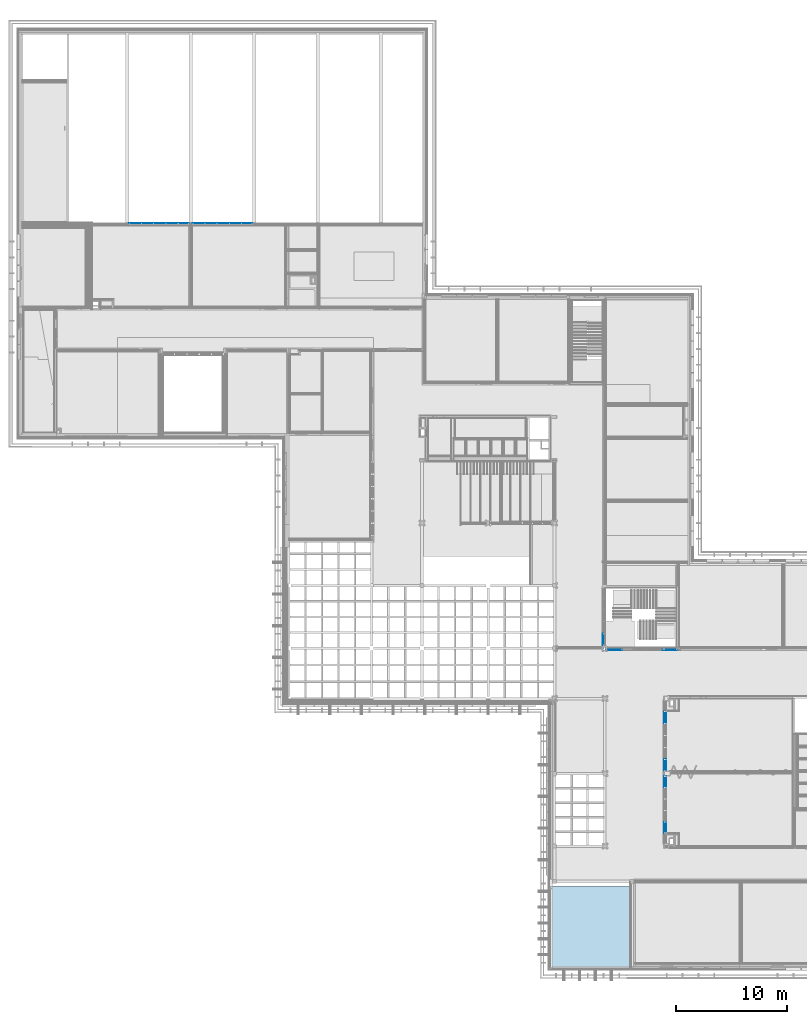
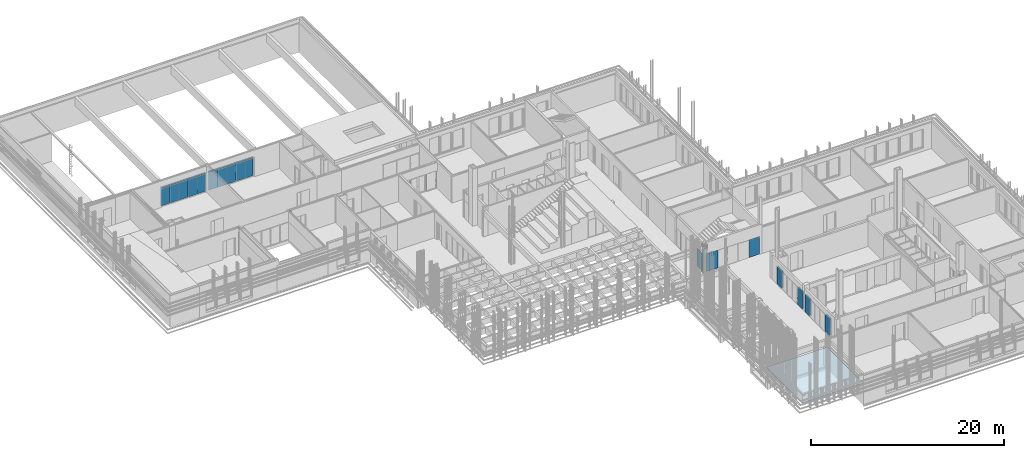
# One storey, part 20 of 139: 31 plates, 1 slab, 8 elements without a shape of their own.
"""IFC2X3 building model written with IfcOpenShell, lengths in millimetres."""

from ifc_helpers import new_model, entity, si_unit, converted_unit, derived_unit, money_unit, direction, frame, origin_with_axes, place, context, subcontext, project, spatial, faceted_brep, source, transform, mapped, material, type_object, element, aggregate, save


model = new_model("IFC2X3")

# Units and contexts
model_context = context("Model", 3, precision=0.01, world=origin_with_axes(), true_north=direction((0.0, 1.0)))
body_context = subcontext(model_context, "Body", "Model", "MODEL_VIEW")
ifc_project = project(units=[si_unit("LENGTHUNIT", "METRE", prefix="MILLI"), si_unit("AREAUNIT", "SQUARE_METRE"), si_unit("VOLUMEUNIT", "CUBIC_METRE"), converted_unit("PLANEANGLEUNIT", "DEGREE", entity("IfcPlaneAngleMeasure", 0.0174532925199), si_unit("PLANEANGLEUNIT", "RADIAN"), dimensions=[0, 0, 0, 0, 0, 0, 0]), money_unit("EUR"), converted_unit("TIMEUNIT", "Year", entity("IfcTimeMeasure", 31556926.0), si_unit("TIMEUNIT", "SECOND"), dimensions=[0, 0, 1, 0, 0, 0, 0]), si_unit("MASSUNIT", "GRAM", prefix="KILO"), si_unit("THERMODYNAMICTEMPERATUREUNIT", "DEGREE_CELSIUS"), si_unit("LUMINOUSINTENSITYUNIT", "LUMEN"), si_unit("ENERGYUNIT", "JOULE", prefix="MEGA"), derived_unit("THERMALCONDUCTANCEUNIT", [(si_unit("POWERUNIT", "WATT"), 1), (si_unit("LENGTHUNIT", "METRE"), -1), (si_unit("THERMODYNAMICTEMPERATUREUNIT", "KELVIN"), -1)]), derived_unit("SPECIFICHEATCAPACITYUNIT", [(si_unit("ENERGYUNIT", "JOULE"), 1), (si_unit("MASSUNIT", "GRAM", prefix="KILO"), -1), (si_unit("THERMODYNAMICTEMPERATUREUNIT", "KELVIN"), -1)]), derived_unit("MASSDENSITYUNIT", [(si_unit("MASSUNIT", "GRAM", prefix="KILO"), 1), (si_unit("VOLUMEUNIT", "CUBIC_METRE"), -1)])], contexts=[model_context])

# Site, building, storey
site_placement = place(None, origin_with_axes())
site = spatial("IfcSite", under=ifc_project, at=site_placement, Name="Kolde pst 67a", CompositionType="ELEMENT")
building_placement = place(site_placement, origin_with_axes())
building = spatial("IfcBuilding", under=site, at=building_placement, Name="Riigigümnaasium", CompositionType="ELEMENT")
storey_placement = place(building_placement, frame((0.0, 0.0, 4600.0), z_axis=(0.0, 0.0, 1.0), x_axis=(1.0, 0.0, 0.0)))
storey = spatial("IfcBuildingStorey", under=building, at=storey_placement, Name="2. korrus", CompositionType="ELEMENT", Elevation=4600.0)

# Curtain wall, plate
curtain_wall_type = type_object("IfcCurtainWallType", Name="Curtain Wall Type", PredefinedType="NOTDEFINED")
curtain_wall_1_placement = place(storey_placement, frame((52619.9941222, 32759.7635899, -0.000120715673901), z_axis=(0.0, 0.0, 1.0), x_axis=(1.0, 0.0, 0.0)))
curtain_wall_1 = element("IfcCurtainWall", 1, at=curtain_wall_1_placement, inside=storey, type_object=curtain_wall_type, Name="KLAASSEIN")
ifc_material_1 = material(Name="_GENEERILINE MATERJAL KLAAS")
plate_type_1 = type_object("IfcPlateType", Name="Distinct Panel 20 x 2300 x 20", PredefinedType="NOTDEFINED")
plate_1_placement = place(curtain_wall_1_placement, frame((0.0, -3404.63062111, 1150.00006036), z_axis=(0.0, 0.0, 1.0), x_axis=(0.0, 1.0, 0.0)))
plate_1 = element("IfcPlate", 2, at=plate_1_placement, type_object=plate_type_1, material=ifc_material_1, Name="Klaasseina uks", context=body_context, shape_type="Brep", body=[
    faceted_brep([(701.6306095, -10.0, 1150.00006036), (721.630618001, -10.0, 1150.00006036), (721.630618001, 10.0, 1150.00006036), (701.6306095, 10.0, 1150.00006036), (701.6306095, -10.0, 1130.00005186), (-270.369392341, -10.0, 1130.00005186), (-411.261261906, -10.0, 1130.00005186), (-411.261261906, -10.0, -1130.00005186), (-270.369392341, -10.0, -1130.00005186), (701.6306095, -10.0, -1130.00005186), (701.6306095, -10.0, -1150.00006036), (721.630618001, -10.0, -1150.00006036), (721.630618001, 10.0, -1150.00006036), (701.6306095, 10.0, -1150.00006036), (701.6306095, 10.0, -1130.00005186), (-270.369392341, 10.0, -1130.00005186), (-411.261261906, 10.0, -1130.00005186), (-411.261261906, 10.0, 1130.00005186), (-270.369392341, 10.0, 1130.00005186), (701.6306095, 10.0, 1130.00005186)], [[[0, 1, 2, 3]], [[0, 4, 5, 6, 7, 8, 9, 10, 11, 1]], [[1, 11, 12, 2]], [[3, 2, 12, 13, 14, 15, 16, 17, 18, 19]], [[4, 0, 3, 19]], [[5, 4, 19, 18]], [[6, 5, 18, 17]], [[7, 6, 17, 16]], [[8, 7, 16, 15]], [[9, 8, 15, 14]], [[10, 9, 14, 13]], [[11, 10, 13, 12]]]),
])
aggregate(curtain_wall_1, [plate_1])

# Curtain wall, plates
curtain_wall_2_placement = place(storey_placement, frame((56010.5010848, 28629.9996643, -9.132059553e-06), z_axis=(0.0, 0.0, 1.0), x_axis=(1.0, 0.0, 0.0)))
curtain_wall_2 = element("IfcCurtainWall", 3, at=curtain_wall_2_placement, inside=storey, type_object=curtain_wall_type, Name="KLAASSEIN")
plate_2_placement = place(curtain_wall_2_placement, frame((-2367.17122128, 0.0, 1150.00000457), z_axis=(0.0, 0.0, 1.0), x_axis=(1.0, 0.0, 0.0)))
plate_2 = element("IfcPlate", 4, at=plate_2_placement, type_object=plate_type_1, material=ifc_material_1, Name="Klaasseina uks", context=body_context, shape_type="Brep", body=[
    faceted_brep([(636.608595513, 10.0, 1150.00000457), (636.608595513, -10.0, 1150.00000457), (656.608603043, -10.0, 1150.00000457), (656.608603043, 10.0, 1150.00000457), (636.608595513, 10.0, 1129.99999704), (636.608595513, -10.0, 1129.99999704), (86.7268863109, -10.0, 1129.99999704), (-703.335530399, -10.0, 1129.99999704), (-703.335530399, -10.0, -1129.99999704), (86.7268863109, -10.0, -1129.99999704), (636.608595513, -10.0, -1129.99999704), (636.608595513, -10.0, -1150.00000457), (656.608603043, -10.0, -1150.00000457), (656.608603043, 10.0, -1150.00000457), (636.608595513, 10.0, -1150.00000457), (636.608595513, 10.0, -1129.99999704), (86.7268863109, 10.0, -1129.99999704), (-703.335530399, 10.0, -1129.99999704), (-703.335530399, 10.0, 1129.99999704), (86.7268863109, 10.0, 1129.99999704)], [[[0, 1, 2, 3]], [[4, 5, 1, 0]], [[1, 5, 6, 7, 8, 9, 10, 11, 12, 2]], [[3, 2, 12, 13]], [[0, 3, 13, 14, 15, 16, 17, 18, 19, 4]], [[19, 6, 5, 4]], [[18, 7, 6, 19]], [[17, 8, 7, 18]], [[16, 9, 8, 17]], [[15, 10, 9, 16]], [[14, 11, 10, 15]], [[13, 12, 11, 14]]]),
])
plate_type_2 = type_object("IfcPlateType", Name="Distinct Panel 20 x 20 x 20", PredefinedType="NOTDEFINED")
plate_3_placement = place(curtain_wall_2_placement, frame((2485.23116094, 0.0, 1150.00000457), z_axis=(0.0, 0.0, 1.0), x_axis=(1.0, 0.0, 0.0)))
plate_3 = element("IfcPlate", 5, at=plate_3_placement, type_object=plate_type_2, material=ifc_material_1, Name="RF PANEEL ERI-051", context=body_context, shape_type="Brep", body=[
    faceted_brep([(-478.649039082, 10.0, 1150.00000457), (-478.649039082, -10.0, 1150.00000457), (-458.649031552, -10.0, 1150.00000457), (-458.649031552, 10.0, 1150.00000457), (-478.649039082, 10.0, -1150.00000457), (-478.649039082, -10.0, -1150.00000457), (-458.649031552, -10.0, -1150.00000457), (-458.649031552, -10.0, -1129.99999704), (-325.675465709, -10.0, -1129.99999704), (764.324516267, -10.0, -1129.99999704), (764.324516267, -10.0, 1129.99999704), (-325.675465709, -10.0, 1129.99999704), (-458.649031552, -10.0, 1129.99999704), (-458.649031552, 10.0, 1129.99999704), (-325.675465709, 10.0, 1129.99999704), (764.324516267, 10.0, 1129.99999704), (764.324516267, 10.0, -1129.99999704), (-325.675465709, 10.0, -1129.99999704), (-458.649031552, 10.0, -1129.99999704), (-458.649031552, 10.0, -1150.00000457)], [[[0, 1, 2, 3]], [[4, 5, 1, 0]], [[1, 5, 6, 7, 8, 9, 10, 11, 12, 2]], [[3, 2, 12, 13]], [[0, 3, 13, 14, 15, 16, 17, 18, 19, 4]], [[19, 6, 5, 4]], [[18, 7, 6, 19]], [[17, 8, 7, 18]], [[16, 9, 8, 17]], [[15, 10, 9, 16]], [[14, 11, 10, 15]], [[13, 12, 11, 14]]]),
])
aggregate(curtain_wall_2, [plate_3, plate_2])

# Curtain wall, plate
curtain_wall_3_placement = place(storey_placement, frame((58149.9590802, 13604.9614037, -2.92339397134e-05), z_axis=(0.0, 0.0, 1.0), x_axis=(1.0, 0.0, 0.0)))
curtain_wall_3 = element("IfcCurtainWall", 6, at=curtain_wall_3_placement, inside=storey, type_object=curtain_wall_type, Name="KLAASSEIN")
plate_type_3 = type_object("IfcPlateType", Name="Distinct Panel 1005 x 2240 x 20", PredefinedType="NOTDEFINED")
plate_4_placement = place(curtain_wall_3_placement, frame((0.00293438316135, -1040.0, 1150.00002248), z_axis=(0.0, 0.0, 1.0), x_axis=(2.82152227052e-06, -0.999999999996, 0.0)))
plate_4 = element("IfcPlate", 7, at=plate_4_placement, type_object=plate_type_3, material=ifc_material_1, Name="RF PANEEL ERI-016", context=body_context, shape_type="Brep", body=[
    faceted_brep([(-514.999985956, 10.0, 1120.00002785), (-514.999985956, -10.0, 1120.00002785), (490.000005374, -10.0, 1120.00002785), (490.000005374, 10.0, 1120.00002785), (-514.999985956, 10.0, -1120.00002785), (-514.999985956, -10.0, -1120.00002785), (490.000005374, -10.0, -1120.00002785), (490.000005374, 10.0, -1120.00002785)], [[[0, 1, 2, 3]], [[4, 5, 1, 0]], [[1, 5, 6, 2]], [[3, 2, 6, 7]], [[0, 3, 7, 4]], [[7, 6, 5, 4]]]),
])

curtain_wall_4_placement = place(storey_placement, frame((58309.9589479, 13604.961802, -0.000125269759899), z_axis=(0.0, 0.0, 1.0), x_axis=(1.0, 0.0, 0.0)))
curtain_wall_4 = element("IfcCurtainWall", 8, at=curtain_wall_4_placement, inside=storey, type_object=curtain_wall_type, Name="KLAASSEIN")
plate_5_placement = place(curtain_wall_4_placement, frame((0.00302256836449, -1040.0, 1150.00006759), z_axis=(0.0, 0.0, 1.0), x_axis=(2.90631572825e-06, -0.999999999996, 0.0)))
plate_5 = element("IfcPlate", 9, at=plate_5_placement, type_object=plate_type_3, material=ifc_material_1, Name="RF PANEEL ERI-016", context=body_context, shape_type="Brep", body=[
    faceted_brep([(-514.999985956, -10.0, 1119.99998273), (490.000005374, -10.0, 1119.99998273), (490.000005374, 9.99999999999, 1119.99998273), (-514.999985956, 10.0, 1119.99998273), (-514.999985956, -10.0, -1120.00007297), (490.000005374, -10.0, -1120.00007297), (490.000005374, 9.99999999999, -1120.00007297), (-514.999985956, 10.0, -1120.00007297)], [[[0, 1, 2, 3]], [[0, 4, 5, 1]], [[1, 5, 6, 2]], [[3, 2, 6, 7]], [[4, 0, 3, 7]], [[5, 4, 7, 6]]]),
])

# Plate
plate_type_4 = type_object("IfcPlateType", Name="Distinct Panel 1000 x 2240 x 20", PredefinedType="NOTDEFINED")
plate_6_placement = place(curtain_wall_3_placement, frame((-0.00879614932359, 3117.5190109, 1150.00002248), z_axis=(0.0, 0.0, 1.0), x_axis=(2.82152227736e-06, -0.999999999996, 0.0)))
plate_6 = element("IfcPlate", 10, at=plate_6_placement, type_object=plate_type_4, material=ifc_material_1, Name="RF PANEEL ERI-026", context=body_context, shape_type="Brep", body=[
    faceted_brep([(-487.519023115, 10.0, 1120.00002785), (-487.519023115, -9.99999999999, 1120.00002785), (512.519000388, -10.0, 1120.00002785), (512.519000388, 10.0, 1120.00002785), (-487.519023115, 10.0, -1120.00002785), (-487.519023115, -9.99999999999, -1120.00002785), (512.519000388, -10.0, -1120.00002785), (512.519000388, 10.0, -1120.00002785)], [[[0, 1, 2, 3]], [[4, 5, 1, 0]], [[1, 5, 6, 2]], [[3, 2, 6, 7]], [[0, 3, 7, 4]], [[7, 6, 5, 4]]]),
])

aggregate(curtain_wall_3, [plate_4, plate_6])

plate_7_placement = place(curtain_wall_4_placement, frame((-0.0090604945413, 3117.51901091, 1150.00006759), z_axis=(0.0, 0.0, 1.0), x_axis=(2.90631572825e-06, -0.999999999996, 0.0)))
plate_7 = element("IfcPlate", 11, at=plate_7_placement, type_object=plate_type_4, material=ifc_material_1, Name="RF PANEEL ERI-026", context=body_context, shape_type="Brep", body=[
    faceted_brep([(-487.519023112, -10.0, 1119.99998273), (512.519000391, -10.0, 1119.99998273), (512.519000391, 9.99999999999, 1119.99998273), (-487.519023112, 10.0, 1119.99998273), (-487.519023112, -10.0, -1120.00007297), (512.519000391, -10.0, -1120.00007297), (512.519000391, 9.99999999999, -1120.00007297), (-487.519023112, 10.0, -1120.00007297)], [[[0, 1, 2, 3]], [[0, 4, 5, 1]], [[1, 5, 6, 2]], [[3, 2, 6, 7]], [[4, 0, 3, 7]], [[5, 4, 7, 6]]]),
])

aggregate(curtain_wall_4, [plate_5, plate_7])

# Curtain wall, plates
curtain_wall_5_placement = place(storey_placement, frame((58149.948335, 21457.4999721, -5.87247752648e-05), z_axis=(0.0, 0.0, 1.0), x_axis=(1.0, 0.0, 0.0)))
curtain_wall_5 = element("IfcCurtainWall", 12, at=curtain_wall_5_placement, inside=storey, type_object=curtain_wall_type, Name="KLAASSEIN")
plate_type_5 = type_object("IfcPlateType", Name="Distinct Panel 1050 x 2240 x 20", PredefinedType="NOTDEFINED")
plate_8_placement = place(curtain_wall_5_placement, frame((-3.38335581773e-06, 1085.0, 1150.00007331), z_axis=(0.0, 0.0, 1.0), x_axis=(-3.11830684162e-09, 1.0, 0.0)))
plate_8 = element("IfcPlate", 13, at=plate_8_placement, type_object=plate_type_5, material=ifc_material_1, Name="RF PANEEL ERI-016", context=body_context, shape_type="Brep", body=[
    faceted_brep([(-537.499991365, -10.0, 1120.00007736), (512.500004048, -10.0, 1120.00007736), (512.500004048, 10.0, 1120.00007736), (-537.499991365, 10.0, 1120.00007736), (-537.499991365, -10.0, -1120.00007736), (512.500004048, -10.0, -1120.00007736), (512.500004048, 10.0, -1120.00007736), (-537.499991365, 10.0, -1120.00007736)], [[[0, 1, 2, 3]], [[0, 4, 5, 1]], [[1, 5, 6, 2]], [[3, 2, 6, 7]], [[4, 0, 3, 7]], [[5, 4, 7, 6]]]),
])
plate_9_placement = place(curtain_wall_5_placement, frame((1.01500816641e-05, -3255.00003466, 1150.00007331), z_axis=(0.0, 0.0, 1.0), x_axis=(-3.11830664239e-09, 1.0, 0.0)))
plate_9 = element("IfcPlate", 14, at=plate_9_placement, type_object=plate_type_5, material=ifc_material_1, Name="RF PANEEL ERI-027", context=body_context, shape_type="Brep", body=[
    faceted_brep([(-512.500040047, -10.0, 1120.00007736), (537.500023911, -10.0, 1120.00007736), (537.500023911, 10.0, 1120.00007736), (-512.500040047, 10.0, 1120.00007736), (-512.500040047, -10.0, -1120.00007736), (537.500023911, -10.0, -1120.00007736), (537.500023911, 10.0, -1120.00007736), (-512.500040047, 10.0, -1120.00007736)], [[[0, 1, 2, 3]], [[0, 4, 5, 1]], [[1, 5, 6, 2]], [[3, 2, 6, 7]], [[4, 0, 3, 7]], [[5, 4, 7, 6]]]),
])
aggregate(curtain_wall_5, [plate_8, plate_9])

curtain_wall_6_placement = place(storey_placement, frame((58309.948762, 21457.499953, -9.60191526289e-05), z_axis=(0.0, 0.0, 1.0), x_axis=(1.0, 0.0, 0.0)))
curtain_wall_6 = element("IfcCurtainWall", 15, at=curtain_wall_6_placement, inside=storey, type_object=curtain_wall_type, Name="KLAASSEIN")
plate_10_placement = place(curtain_wall_6_placement, frame((0.000118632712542, 1085.0, 1150.00007331), z_axis=(0.0, 0.0, 1.0), x_axis=(1.09338905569e-07, 1.0, 0.0)))
plate_10 = element("IfcPlate", 16, at=plate_10_placement, type_object=plate_type_5, material=ifc_material_1, Name="RF PANEEL ERI-016", context=body_context, shape_type="Brep", body=[
    faceted_brep([(-537.499991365, 10.0, 1120.00007736), (-537.499991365, -10.0, 1120.00007736), (512.500004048, -10.0, 1120.00007736), (512.500004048, 10.0, 1120.00007736), (-537.499991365, 10.0, -1120.00007736), (-537.499991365, -10.0, -1120.00007736), (512.500004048, -10.0, -1120.00007736), (512.500004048, 10.0, -1120.00007736)], [[[0, 1, 2, 3]], [[4, 5, 1, 0]], [[1, 5, 6, 2]], [[3, 2, 6, 7]], [[0, 3, 7, 4]], [[7, 6, 5, 4]]]),
])
plate_11_placement = place(curtain_wall_6_placement, frame((-0.000355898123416, -3255.00000031, 1150.00007331), z_axis=(0.0, 0.0, 1.0), x_axis=(1.09338905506e-07, 1.0, 0.0)))
plate_11 = element("IfcPlate", 17, at=plate_11_placement, type_object=plate_type_5, material=ifc_material_1, Name="RF PANEEL ERI-027", context=body_context, shape_type="Brep", body=[
    faceted_brep([(-512.500074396, 10.0, 1120.00007736), (-512.500074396, -10.0, 1120.00007736), (537.499989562, -10.0, 1120.00007736), (537.499989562, 10.0, 1120.00007736), (-512.500074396, 10.0, -1120.00007736), (-512.500074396, -10.0, -1120.00007736), (537.499989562, -10.0, -1120.00007736), (537.499989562, 10.0, -1120.00007736)], [[[0, 1, 2, 3]], [[4, 5, 1, 0]], [[1, 5, 6, 2]], [[3, 2, 6, 7]], [[0, 3, 7, 4]], [[7, 6, 5, 4]]]),
])
aggregate(curtain_wall_6, [plate_10, plate_11])

# Slab
ifc_material_2 = material(Name="_VÄLISVIIMISTLUS - vertikaalne voodrilaud, Platowood P01 profiil 18x140mm, kuusk; eeltöödeldud tuletõkkega mõlemad küljed, B-s1, d0, Woodsafe Exterior WFX™ või samaväärne")
slab_type = type_object("IfcSlabType", Name="_VÄLISVIIMISTLUS - vertikaalne voodrilaud, Platowood P01 profiil 18x140mm, kuusk; eeltöödeldud tuletõkkega mõlemad küljed, B-s1, d0, Woodsafe Exterior WFX™ või samaväärne 18", PredefinedType="NOTDEFINED")
slab_placement = place(storey_placement, frame((47727.9854571, -243.999996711, 2689.99996805), z_axis=(0.0, 0.0, 1.0), x_axis=(1.0, 0.0, 0.0)))
element("IfcSlab", 18, at=slab_placement, inside=storey, type_object=slab_type, material=ifc_material_2, Name="VAHELAGI", PredefinedType="NOTDEFINED", context=body_context, shape_type="Brep", body=[
    faceted_brep([(7330.02683706, 7495.0022571, -18.0), (18.0000104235, 7495.0022571, -17.9999680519), (18.0000104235, 7495.0022571, 3.03089908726e-05), (7330.02683706, 7495.0022571, 0.0), (7330.02683706, 0.0, -18.0), (18.0000104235, 0.0, -17.9999680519), (18.0000104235, 0.0, 3.03089908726e-05), (7330.02683706, 0.0, 0.0)], [[[0, 1, 2, 3]], [[4, 5, 1, 0]], [[5, 6, 2, 1]], [[3, 2, 6, 7]], [[4, 0, 3, 7]], [[7, 6, 5, 4]]]),
])

# Curtain wall, plate
curtain_wall_7_placement = place(storey_placement, frame((16075.0009233, 67175.1339524, -0.000749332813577), z_axis=(0.0, 0.0, 1.0), x_axis=(1.0, 0.0, 0.0)))
curtain_wall_7 = element("IfcCurtainWall", 19, at=curtain_wall_7_placement, inside=storey, type_object=curtain_wall_type, Name="KLAASSEIN")
plate_type_6 = type_object("IfcPlateType", Name="Distinct Panel 1075 x 2265 x 20", PredefinedType="NOTDEFINED")
shared_shape_1 = source(origin_with_axes(), body_context, "Body", "Brep", [
    faceted_brep([(-1105.00000894, 2294.99998957, -10.0), (-1105.00000894, 2294.99998957, 10.0), (-29.9999940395, 2294.99998957, 10.0), (-29.9999940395, 2294.99998957, -10.0), (-1105.00000894, 29.9999940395, -10.0), (-1105.00000894, 29.9999940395, 10.0), (-29.9999940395, 29.9999940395, 10.0), (-29.9999940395, 29.9999940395, -10.0)], [[[0, 1, 2, 3]], [[4, 5, 1, 0]], [[1, 5, 6, 2]], [[3, 2, 6, 7]], [[0, 3, 7, 4]], [[7, 6, 5, 4]]]),
])
plate_12_placement = place(curtain_wall_7_placement, frame((0.0, 0.0, 1150.0), z_axis=(0.0, 0.0, 1.0), x_axis=(-0.999999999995, 3.01617563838e-06, 0.0)))
plate_12 = element("IfcPlate", 20, at=plate_12_placement, type_object=plate_type_6, material=ifc_material_1, Name="RF PANEEL ERI-037", context=body_context, shape_type="MappedRepresentation", body=[
    mapped(shared_shape_1, transform((555.0, 0.0, -1150.0), x_axis=(0.999999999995, 3.01617563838e-06, 0.0), y_axis=(0.0, 0.0, 1.0), z_axis=(3.01617563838e-06, -0.999999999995, 0.0))),
])

curtain_wall_8_placement = place(storey_placement, frame((10344.9992917, 67175.1512351, -0.000749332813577), z_axis=(0.0, 0.0, 1.0), x_axis=(1.0, 0.0, 0.0)))
curtain_wall_8 = element("IfcCurtainWall", 21, at=curtain_wall_8_placement, inside=storey, type_object=curtain_wall_type, Name="KLAASSEIN")
plate_13_placement = place(curtain_wall_8_placement, frame((0.0, 0.0, 1150.0), z_axis=(0.0, 0.0, 1.0), x_axis=(-0.999999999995, 3.01617563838e-06, 0.0)))
plate_13 = element("IfcPlate", 22, at=plate_13_placement, type_object=plate_type_6, material=ifc_material_1, Name="RF PANEEL ERI-037", context=body_context, shape_type="MappedRepresentation", body=[
    mapped(shared_shape_1, transform((555.0, 0.0, -1150.0), x_axis=(0.999999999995, 3.01617563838e-06, 0.0), y_axis=(0.0, 0.0, 1.0), z_axis=(3.01617563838e-06, -0.999999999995, 0.0))),
])

# Plate
plate_type_7 = type_object("IfcPlateType", Name="Distinct Panel 1100 x 2265 x 20", PredefinedType="NOTDEFINED")
shared_shape_2 = source(origin_with_axes(), body_context, "Body", "Brep", [
    faceted_brep([(-1105.00000894, 2294.99998957, -10.0), (-1105.00000894, 2294.99998957, 10.0), (-5.00001043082, 2294.99998957, 10.0), (-5.00001043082, 2294.99998957, -10.0), (-1105.00000894, 29.9999940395, -10.0), (-1105.00000894, 29.9999940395, 10.0), (-5.00001043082, 29.9999940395, 10.0), (-5.00001043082, 29.9999940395, -10.0)], [[[0, 1, 2, 3]], [[4, 5, 1, 0]], [[1, 5, 6, 2]], [[3, 2, 6, 7]], [[0, 3, 7, 4]], [[7, 6, 5, 4]]]),
])
plate_14_placement = place(curtain_wall_7_placement, frame((1109.99999999, -0.0033479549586, 1150.0), z_axis=(0.0, 0.0, 1.0), x_axis=(-0.999999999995, 3.01617563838e-06, 0.0)))
plate_14 = element("IfcPlate", 23, at=plate_14_placement, type_object=plate_type_7, material=ifc_material_1, Name="RF PANEEL ERI-038", context=body_context, shape_type="MappedRepresentation", body=[
    mapped(shared_shape_2, transform((555.0, 0.0, -1150.0), x_axis=(0.999999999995, 3.01617563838e-06, 0.0), y_axis=(0.0, 0.0, 1.0), z_axis=(3.01617563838e-06, -0.999999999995, 0.0))),
])

plate_15_placement = place(curtain_wall_7_placement, frame((2219.99999999, -0.00669590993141, 1150.0), z_axis=(0.0, 0.0, 1.0), x_axis=(-0.999999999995, 3.01617565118e-06, 0.0)))
plate_15 = element("IfcPlate", 24, at=plate_15_placement, type_object=plate_type_7, material=ifc_material_1, Name="RF PANEEL ERI-039", context=body_context, shape_type="MappedRepresentation", body=[
    mapped(shared_shape_2, transform((555.0, 0.0, -1150.0), x_axis=(0.999999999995, 3.01617565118e-06, 0.0), y_axis=(0.0, 0.0, 1.0), z_axis=(3.01617565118e-06, -0.999999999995, 0.0))),
])

plate_16_placement = place(curtain_wall_7_placement, frame((3329.99999998, -0.01004386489, 1150.0), z_axis=(0.0, 0.0, 1.0), x_axis=(-0.999999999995, 3.01617563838e-06, 0.0)))
plate_16 = element("IfcPlate", 25, at=plate_16_placement, type_object=plate_type_7, material=ifc_material_1, Name="RF PANEEL ERI-040", context=body_context, shape_type="MappedRepresentation", body=[
    mapped(shared_shape_2, transform((555.0, 0.0, -1150.0), x_axis=(0.999999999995, 3.01617563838e-06, 0.0), y_axis=(0.0, 0.0, 1.0), z_axis=(3.01617563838e-06, -0.999999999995, 0.0))),
])

plate_17_placement = place(curtain_wall_8_placement, frame((1109.99999999, -0.0033479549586, 1150.0), z_axis=(0.0, 0.0, 1.0), x_axis=(-0.999999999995, 3.01617563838e-06, 0.0)))
plate_17 = element("IfcPlate", 26, at=plate_17_placement, type_object=plate_type_7, material=ifc_material_1, Name="RF PANEEL ERI-038", context=body_context, shape_type="MappedRepresentation", body=[
    mapped(shared_shape_2, transform((555.0, 0.0, -1150.0), x_axis=(0.999999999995, 3.01617563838e-06, 0.0), y_axis=(0.0, 0.0, 1.0), z_axis=(3.01617563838e-06, -0.999999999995, 0.0))),
])

plate_18_placement = place(curtain_wall_8_placement, frame((2219.99999999, -0.00669590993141, 1150.0), z_axis=(0.0, 0.0, 1.0), x_axis=(-0.999999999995, 3.01617565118e-06, 0.0)))
plate_18 = element("IfcPlate", 27, at=plate_18_placement, type_object=plate_type_7, material=ifc_material_1, Name="RF PANEEL ERI-039", context=body_context, shape_type="MappedRepresentation", body=[
    mapped(shared_shape_2, transform((555.0, 0.0, -1150.0), x_axis=(0.999999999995, 3.01617565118e-06, 0.0), y_axis=(0.0, 0.0, 1.0), z_axis=(3.01617565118e-06, -0.999999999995, 0.0))),
])

plate_19_placement = place(curtain_wall_8_placement, frame((3329.99999998, -0.01004386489, 1150.0), z_axis=(0.0, 0.0, 1.0), x_axis=(-0.999999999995, 3.01617563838e-06, 0.0)))
plate_19 = element("IfcPlate", 28, at=plate_19_placement, type_object=plate_type_7, material=ifc_material_1, Name="RF PANEEL ERI-040", context=body_context, shape_type="MappedRepresentation", body=[
    mapped(shared_shape_2, transform((555.0, 0.0, -1150.0), x_axis=(0.999999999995, 3.01617563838e-06, 0.0), y_axis=(0.0, 0.0, 1.0), z_axis=(3.01617563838e-06, -0.999999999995, 0.0))),
])

plate_type_8 = type_object("IfcPlateType", Name="Distinct Panel 935 x 2265 x 20", PredefinedType="NOTDEFINED")
shared_shape_3 = source(origin_with_axes(), body_context, "Body", "Brep", [
    faceted_brep([(-939.999973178, 2294.99998957, -10.0), (-939.999973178, 2294.99998957, 10.0), (-5.00001043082, 2294.99998957, 10.0), (-5.00001043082, 2294.99998957, -10.0), (-939.999973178, 29.9999940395, -10.0), (-939.999973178, 29.9999940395, 10.0), (-5.00001043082, 29.9999940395, 10.0), (-5.00001043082, 29.9999940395, -10.0)], [[[0, 1, 2, 3]], [[4, 5, 1, 0]], [[1, 5, 6, 2]], [[3, 2, 6, 7]], [[0, 3, 7, 4]], [[7, 6, 5, 4]]]),
])
plate_20_placement = place(curtain_wall_7_placement, frame((4369.99998322, -0.0131806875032, 1150.0), z_axis=(0.0, 0.0, 1.0), x_axis=(-0.999999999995, 3.01617563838e-06, 0.0)))
plate_20 = element("IfcPlate", 29, at=plate_20_placement, type_object=plate_type_8, material=ifc_material_1, Name="RF PANEEL ERI-041", context=body_context, shape_type="MappedRepresentation", body=[
    mapped(shared_shape_3, transform((484.999983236, 0.0, -1150.0), x_axis=(0.999999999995, 3.01617563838e-06, 0.0), y_axis=(0.0, 0.0, 1.0), z_axis=(3.01617563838e-06, -0.999999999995, 0.0))),
])

plate_21_placement = place(curtain_wall_8_placement, frame((4369.99998322, -0.0131806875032, 1150.0), z_axis=(0.0, 0.0, 1.0), x_axis=(-0.999999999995, 3.01617563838e-06, 0.0)))
plate_21 = element("IfcPlate", 30, at=plate_21_placement, type_object=plate_type_8, material=ifc_material_1, Name="RF PANEEL ERI-041", context=body_context, shape_type="MappedRepresentation", body=[
    mapped(shared_shape_3, transform((484.999983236, 0.0, -1150.0), x_axis=(0.999999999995, 3.01617563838e-06, 0.0), y_axis=(0.0, 0.0, 1.0), z_axis=(3.01617563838e-06, -0.999999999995, 0.0))),
])

plate_type_9 = type_object("IfcPlateType", Name="Distinct Panel 1075 x 145 x 20", PredefinedType="NOTDEFINED")
shared_shape_4 = source(origin_with_axes(), body_context, "Body", "Brep", [
    faceted_brep([(-1104.99999821, 150.000020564, -10.0), (-1104.99999821, 150.000020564, 10.0), (-29.9999941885, 150.000020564, 10.0), (-29.9999941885, 150.000020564, -10.0), (-1104.99999821, 5.00000178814, -10.0), (-1104.99999821, 5.00000178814, 10.0), (-29.9999941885, 5.00000178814, 10.0), (-29.9999941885, 5.00000178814, -10.0)], [[[0, 1, 2, 3]], [[4, 5, 1, 0]], [[1, 5, 6, 2]], [[3, 2, 6, 7]], [[0, 3, 7, 4]], [[7, 6, 5, 4]]]),
])
plate_22_placement = place(curtain_wall_7_placement, frame((0.0, 0.0, 2390.00000938), z_axis=(0.0, 0.0, 1.0), x_axis=(-0.999999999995, 3.01617563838e-06, 0.0)))
plate_22 = element("IfcPlate", 31, at=plate_22_placement, type_object=plate_type_9, material=ifc_material_1, Name="RF PANEEL ERI-043", context=body_context, shape_type="MappedRepresentation", body=[
    mapped(shared_shape_4, transform((555.0, 0.0, -90.0000093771), x_axis=(0.999999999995, 3.01617563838e-06, 0.0), y_axis=(0.0, 0.0, 1.0), z_axis=(3.01617563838e-06, -0.999999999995, 0.0))),
])

plate_23_placement = place(curtain_wall_8_placement, frame((0.0, 0.0, 2390.00000938), z_axis=(0.0, 0.0, 1.0), x_axis=(-0.999999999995, 3.01617563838e-06, 0.0)))
plate_23 = element("IfcPlate", 32, at=plate_23_placement, type_object=plate_type_9, material=ifc_material_1, Name="RF PANEEL ERI-043", context=body_context, shape_type="MappedRepresentation", body=[
    mapped(shared_shape_4, transform((555.0, 0.0, -90.0000093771), x_axis=(0.999999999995, 3.01617563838e-06, 0.0), y_axis=(0.0, 0.0, 1.0), z_axis=(3.01617563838e-06, -0.999999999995, 0.0))),
])

plate_type_10 = type_object("IfcPlateType", Name="Distinct Panel 1100 x 145 x 20", PredefinedType="NOTDEFINED")
shared_shape_5 = source(origin_with_axes(), body_context, "Body", "Brep", [
    faceted_brep([(-1104.99999821, 150.000020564, -10.0), (-1104.99999821, 150.000020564, 10.0), (-5.00000178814, 150.000020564, 10.0), (-5.00000178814, 150.000020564, -10.0), (-1104.99999821, 5.00000178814, -10.0), (-1104.99999821, 5.00000178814, 10.0), (-5.00000178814, 5.00000178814, 10.0), (-5.00000178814, 5.00000178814, -10.0)], [[[0, 1, 2, 3]], [[4, 5, 1, 0]], [[1, 5, 6, 2]], [[3, 2, 6, 7]], [[0, 3, 7, 4]], [[7, 6, 5, 4]]]),
])
plate_24_placement = place(curtain_wall_7_placement, frame((1109.99999999, -0.0033479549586, 2390.00000938), z_axis=(0.0, 0.0, 1.0), x_axis=(-0.999999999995, 3.01617563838e-06, 0.0)))
plate_24 = element("IfcPlate", 33, at=plate_24_placement, type_object=plate_type_10, material=ifc_material_1, Name="RF PANEEL ERI-044", context=body_context, shape_type="MappedRepresentation", body=[
    mapped(shared_shape_5, transform((555.0, 0.0, -90.0000093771), x_axis=(0.999999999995, 3.01617563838e-06, 0.0), y_axis=(0.0, 0.0, 1.0), z_axis=(3.01617563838e-06, -0.999999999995, 0.0))),
])

plate_25_placement = place(curtain_wall_7_placement, frame((2219.99999999, -0.00669590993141, 2390.00000938), z_axis=(0.0, 0.0, 1.0), x_axis=(-0.999999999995, 3.01617565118e-06, 0.0)))
plate_25 = element("IfcPlate", 34, at=plate_25_placement, type_object=plate_type_10, material=ifc_material_1, Name="RF PANEEL ERI-045", context=body_context, shape_type="MappedRepresentation", body=[
    mapped(shared_shape_5, transform((555.0, 0.0, -90.0000093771), x_axis=(0.999999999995, 3.01617565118e-06, 0.0), y_axis=(0.0, 0.0, 1.0), z_axis=(3.01617565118e-06, -0.999999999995, 0.0))),
])

plate_26_placement = place(curtain_wall_7_placement, frame((3329.99999998, -0.01004386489, 2390.00000938), z_axis=(0.0, 0.0, 1.0), x_axis=(-0.999999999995, 3.01617563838e-06, 0.0)))
plate_26 = element("IfcPlate", 35, at=plate_26_placement, type_object=plate_type_10, material=ifc_material_1, Name="RF PANEEL ERI-046", context=body_context, shape_type="MappedRepresentation", body=[
    mapped(shared_shape_5, transform((555.0, 0.0, -90.0000093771), x_axis=(0.999999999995, 3.01617563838e-06, 0.0), y_axis=(0.0, 0.0, 1.0), z_axis=(3.01617563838e-06, -0.999999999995, 0.0))),
])

plate_27_placement = place(curtain_wall_8_placement, frame((1109.99999999, -0.0033479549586, 2390.00000938), z_axis=(0.0, 0.0, 1.0), x_axis=(-0.999999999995, 3.01617563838e-06, 0.0)))
plate_27 = element("IfcPlate", 36, at=plate_27_placement, type_object=plate_type_10, material=ifc_material_1, Name="RF PANEEL ERI-044", context=body_context, shape_type="MappedRepresentation", body=[
    mapped(shared_shape_5, transform((555.0, 0.0, -90.0000093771), x_axis=(0.999999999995, 3.01617563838e-06, 0.0), y_axis=(0.0, 0.0, 1.0), z_axis=(3.01617563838e-06, -0.999999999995, 0.0))),
])

plate_28_placement = place(curtain_wall_8_placement, frame((2219.99999999, -0.00669590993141, 2390.00000938), z_axis=(0.0, 0.0, 1.0), x_axis=(-0.999999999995, 3.01617565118e-06, 0.0)))
plate_28 = element("IfcPlate", 37, at=plate_28_placement, type_object=plate_type_10, material=ifc_material_1, Name="RF PANEEL ERI-045", context=body_context, shape_type="MappedRepresentation", body=[
    mapped(shared_shape_5, transform((555.0, 0.0, -90.0000093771), x_axis=(0.999999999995, 3.01617565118e-06, 0.0), y_axis=(0.0, 0.0, 1.0), z_axis=(3.01617565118e-06, -0.999999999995, 0.0))),
])

plate_29_placement = place(curtain_wall_8_placement, frame((3329.99999998, -0.01004386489, 2390.00000938), z_axis=(0.0, 0.0, 1.0), x_axis=(-0.999999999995, 3.01617563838e-06, 0.0)))
plate_29 = element("IfcPlate", 38, at=plate_29_placement, type_object=plate_type_10, material=ifc_material_1, Name="RF PANEEL ERI-046", context=body_context, shape_type="MappedRepresentation", body=[
    mapped(shared_shape_5, transform((555.0, 0.0, -90.0000093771), x_axis=(0.999999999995, 3.01617563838e-06, 0.0), y_axis=(0.0, 0.0, 1.0), z_axis=(3.01617563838e-06, -0.999999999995, 0.0))),
])

plate_type_11 = type_object("IfcPlateType", Name="Distinct Panel 935 x 145 x 20", PredefinedType="NOTDEFINED")
shared_shape_6 = source(origin_with_axes(), body_context, "Body", "Brep", [
    faceted_brep([(-939.999966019, 150.000031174, -10.0), (-939.999966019, 150.000031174, 10.0), (-5.00000489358, 150.00001672, 10.0), (-5.00000489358, 150.00001672, -10.0), (-939.999966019, 5.00000489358, -10.0), (-939.999966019, 5.00000489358, 10.0), (-5.00000489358, 5.00000489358, 10.0), (-5.00000489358, 5.00000489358, -10.0)], [[[0, 1, 2, 3]], [[4, 5, 1, 0]], [[1, 5, 6, 2]], [[3, 2, 6, 7]], [[0, 3, 7, 4]], [[7, 6, 5, 4]]]),
])
plate_30_placement = place(curtain_wall_7_placement, frame((4369.99998322, -0.0131806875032, 2390.00001139), z_axis=(0.0, 0.0, 1.0), x_axis=(-0.999999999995, 3.01617563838e-06, 0.0)))
plate_30 = element("IfcPlate", 39, at=plate_30_placement, type_object=plate_type_11, material=ifc_material_1, Name="RF PANEEL ERI-042", context=body_context, shape_type="MappedRepresentation", body=[
    mapped(shared_shape_6, transform((484.999983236, 0.0, -90.0000113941), x_axis=(0.999999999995, 3.01617563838e-06, 0.0), y_axis=(0.0, 0.0, 1.0), z_axis=(3.01617563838e-06, -0.999999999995, 0.0))),
])

aggregate(curtain_wall_7, [plate_12, plate_14, plate_15, plate_16, plate_20, plate_22, plate_24, plate_25, plate_26, plate_30])

plate_31_placement = place(curtain_wall_8_placement, frame((4369.99998322, -0.0131806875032, 2390.00001139), z_axis=(0.0, 0.0, 1.0), x_axis=(-0.999999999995, 3.01617563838e-06, 0.0)))
plate_31 = element("IfcPlate", 40, at=plate_31_placement, type_object=plate_type_11, material=ifc_material_1, Name="RF PANEEL ERI-042", context=body_context, shape_type="MappedRepresentation", body=[
    mapped(shared_shape_6, transform((484.999983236, 0.0, -90.0000113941), x_axis=(0.999999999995, 3.01617563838e-06, 0.0), y_axis=(0.0, 0.0, 1.0), z_axis=(3.01617563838e-06, -0.999999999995, 0.0))),
])

aggregate(curtain_wall_8, [plate_13, plate_17, plate_18, plate_19, plate_21, plate_31, plate_23, plate_27, plate_28, plate_29])

save(model, "model.ifc")
